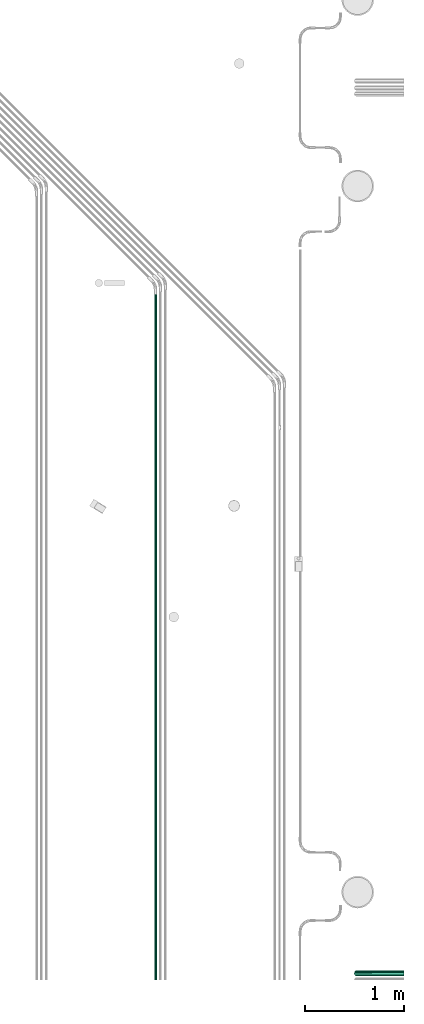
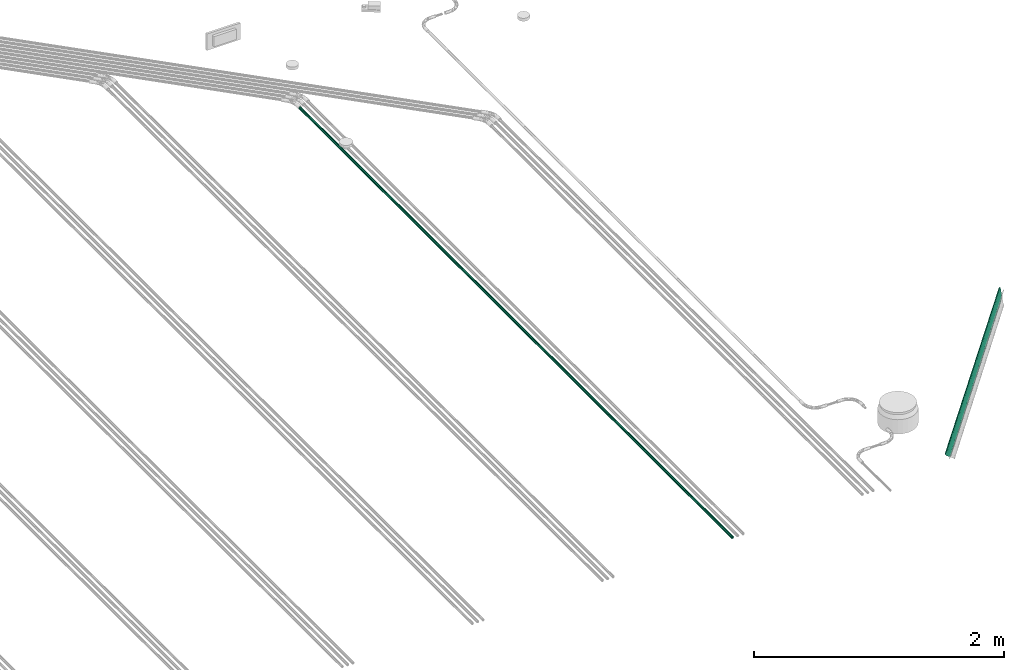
# One storey, part 38 of 51: 3 flow segments.
"""IFC2X3 building model written with IfcOpenShell, lengths in millimetres."""

from ifc_helpers import new_model, entity, si_unit, converted_unit, derived_unit, direction, frame, place, context, subcontext, project, spatial, faceted_brep, type_object, element, save


model = new_model("IFC2X3")

# Units and contexts
model_context = context("Model", 3, precision=0.01, world=frame((0.0, 4.29681676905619e-09, 0.0)), true_north=direction((4.01073788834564e-13, 1.0)))
plan_context = context("Plan", 3, precision=0.01, world=frame((0.0, 4.29681676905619e-09, 0.0)), true_north=direction((4.01073788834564e-13, 1.0)))
body_context = subcontext(model_context, "Body", "Model", "MODEL_VIEW")
ifc_project = project(units=[converted_unit("PLANEANGLEUNIT", "DEGREE", entity("IfcPositiveLengthMeasure", 0.0174532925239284), si_unit("PLANEANGLEUNIT", "RADIAN"), dimensions=[0, 0, 0, 0, 0, 0, 0]), si_unit("AREAUNIT", "SQUARE_METRE"), si_unit("LENGTHUNIT", "METRE", prefix="MILLI"), si_unit("MASSUNIT", "GRAM", prefix="KILO"), si_unit("POWERUNIT", "WATT"), si_unit("PRESSUREUNIT", "PASCAL"), si_unit("FORCEUNIT", "NEWTON", prefix="KILO"), si_unit("ELECTRICVOLTAGEUNIT", "VOLT"), si_unit("ELECTRICCURRENTUNIT", "AMPERE"), si_unit("THERMODYNAMICTEMPERATUREUNIT", "DEGREE_CELSIUS"), si_unit("TIMEUNIT", "SECOND"), si_unit("VOLUMEUNIT", "CUBIC_METRE"), derived_unit("LINEARVELOCITYUNIT", [(si_unit("LENGTHUNIT", "METRE"), 1), (si_unit("TIMEUNIT", "SECOND"), -1)]), derived_unit("VOLUMETRICFLOWRATEUNIT", [(si_unit("VOLUMEUNIT", "CUBIC_METRE"), 1), (si_unit("TIMEUNIT", "SECOND"), -1)]), derived_unit("THERMALTRANSMITTANCEUNIT", [(si_unit("POWERUNIT", "WATT"), 1), (si_unit("THERMODYNAMICTEMPERATUREUNIT", "KELVIN"), -1), (si_unit("AREAUNIT", "SQUARE_METRE"), -1)]), derived_unit("SOUNDPRESSUREUNIT", [(si_unit("PRESSUREUNIT", "PASCAL"), 1)])], contexts=[model_context, plan_context])

# Site, building, storey
site_placement = place(None, frame((0.0, -4.29681676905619e-09, 0.0), z_axis=(0.0, 0.0, 1.0), x_axis=(1.0, 0.0, 0.0)))
site = spatial("IfcSite", under=ifc_project, at=site_placement, Name="ENGM", CompositionType="ELEMENT")
building_placement = place(site_placement, frame((0.0, 4.29681676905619e-09, 0.0), z_axis=(0.0, 0.0, 1.0), x_axis=(1.0, 0.0, 0.0)))
building = spatial("IfcBuilding", under=site, at=building_placement, Name="TI", CompositionType="ELEMENT")
storey_placement = place(building_placement, frame((0.0, 0.0, 210900.0), z_axis=(0.0, 0.0, 1.0), x_axis=(1.0, 0.0, 0.0)))
storey = spatial("IfcBuildingStorey", under=building, at=storey_placement, Name="Nivå F", CompositionType="ELEMENT", Elevation=210900.0)

# Flow segments
cable_carrier_segment_type_1 = type_object("IfcCableCarrierSegmentType", Name="Trekkerør, korrugert", PredefinedType="CONDUITSEGMENT")
flow_segment_1_placement = place(storey_placement, frame((609924.59, 695914.18478, -56.7999999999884), z_axis=(0.0, 0.0, 1.0), x_axis=(0.0, -1.0, 0.0)))
element("IfcFlowSegment", 1, at=flow_segment_1_placement, inside=storey, type_object=cable_carrier_segment_type_1, Name="Trekkerør, korrugert", context=body_context, shape_type="Brep", body=[
    faceted_brep([(6914.18478000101, 10.5, 0.0), (6914.18478000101, 10.3404814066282, -1.82330586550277), (0.0, 10.3404814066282, -1.82330586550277), (0.0, 10.5, 0.0), (6914.18478000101, 9.86677251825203, -3.59121150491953), (0.0, 9.86677251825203, -3.59121150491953), (6914.18478000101, 9.0932667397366, -5.25), (0.0, 9.0932667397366, -5.25), (6914.18478000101, 8.04346665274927, -6.74926990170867), (0.0, 8.04346665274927, -6.74926990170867), (6914.18478000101, 6.74926990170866, -8.04346665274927), (0.0, 6.74926990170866, -8.04346665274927), (6914.18478000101, 5.25, -9.09326673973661), (0.0, 5.25, -9.09326673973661), (6914.18478000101, 3.59121150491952, -9.86677251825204), (0.0, 3.59121150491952, -9.86677251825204), (6914.18478000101, 1.82330586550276, -10.3404814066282), (0.0, 1.82330586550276, -10.3404814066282), (6914.18478000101, -1.92881870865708e-15, -10.5), (0.0, -1.92881870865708e-15, -10.5), (6914.18478000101, -1.82330586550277, -10.3404814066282), (0.0, -1.82330586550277, -10.3404814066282), (6914.18478000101, -3.59121150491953, -9.86677251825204), (0.0, -3.59121150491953, -9.86677251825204), (6914.18478000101, -5.25, -9.0932667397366), (0.0, -5.25, -9.0932667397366), (6914.18478000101, -6.74926990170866, -8.04346665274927), (0.0, -6.74926990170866, -8.04346665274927), (6914.18478000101, -8.04346665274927, -6.74926990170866), (0.0, -8.04346665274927, -6.74926990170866), (6914.18478000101, -9.09326673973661, -5.25), (0.0, -9.09326673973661, -5.25), (6914.18478000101, -9.86677251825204, -3.59121150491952), (0.0, -9.86677251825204, -3.59121150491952), (6914.18478000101, -10.3404814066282, -1.82330586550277), (0.0, -10.3404814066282, -1.82330586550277), (6914.18478000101, -10.5, 1.28587913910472e-15), (0.0, -10.5, 1.28587913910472e-15), (6914.18478000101, -10.3404814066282, 1.82330586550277), (0.0, -10.3404814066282, 1.82330586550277), (6914.18478000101, -9.86677251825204, 3.59121150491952), (0.0, -9.86677251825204, 3.59121150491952), (6914.18478000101, -9.09326673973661, 5.25), (0.0, -9.09326673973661, 5.25), (6914.18478000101, -8.04346665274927, 6.74926990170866), (0.0, -8.04346665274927, 6.74926990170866), (6914.18478000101, -6.74926990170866, 8.04346665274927), (0.0, -6.74926990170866, 8.04346665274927), (6914.18478000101, -5.25, 9.09326673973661), (0.0, -5.25, 9.09326673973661), (6914.18478000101, -3.59121150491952, 9.86677251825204), (0.0, -3.59121150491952, 9.86677251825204), (6914.18478000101, -1.82330586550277, 10.3404814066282), (0.0, -1.82330586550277, 10.3404814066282), (6914.18478000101, 6.4293956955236e-16, 10.5), (0.0, 6.4293956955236e-16, 10.5), (6914.18478000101, 1.82330586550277, 10.3404814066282), (0.0, 1.82330586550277, 10.3404814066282), (6914.18478000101, 3.59121150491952, 9.86677251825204), (0.0, 3.59121150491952, 9.86677251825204), (6914.18478000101, 5.25, 9.09326673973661), (0.0, 5.25, 9.09326673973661), (6914.18478000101, 6.74926990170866, 8.04346665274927), (0.0, 6.74926990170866, 8.04346665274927), (6914.18478000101, 8.04346665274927, 6.74926990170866), (0.0, 8.04346665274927, 6.74926990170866), (6914.18478000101, 9.09326673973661, 5.25), (0.0, 9.09326673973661, 5.25), (6914.18478000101, 9.86677251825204, 3.59121150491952), (0.0, 9.86677251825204, 3.59121150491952), (6914.18478000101, 10.3404814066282, 1.82330586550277), (0.0, 10.3404814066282, 1.82330586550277), (6914.18478000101, 12.3100969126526, -2.17060222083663), (6914.18478000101, 12.5, 0.0), (0.0, 12.5, 0.0), (0.0, 12.3100969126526, -2.17060222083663), (6914.18478000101, 12.3100969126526, 2.17060222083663), (0.0, 12.3100969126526, 2.17060222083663), (6914.18478000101, 11.7461577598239, 4.27525179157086), (0.0, 11.7461577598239, 4.27525179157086), (6914.18478000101, 10.8253175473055, 6.25), (0.0, 10.8253175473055, 6.25), (6914.18478000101, 9.57555553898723, 8.03484512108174), (0.0, 9.57555553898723, 8.03484512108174), (6914.18478000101, 8.03484512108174, 9.57555553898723), (0.0, 8.03484512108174, 9.57555553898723), (6914.18478000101, 6.25, 10.8253175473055), (0.0, 6.25, 10.8253175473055), (6914.18478000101, 4.27525179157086, 11.7461577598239), (0.0, 4.27525179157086, 11.7461577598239), (6914.18478000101, 2.17060222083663, 12.3100969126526), (0.0, 2.17060222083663, 12.3100969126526), (6914.18478000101, 7.65404249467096e-16, 12.5), (0.0, 7.65404249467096e-16, 12.5), (6914.18478000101, -2.17060222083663, 12.3100969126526), (0.0, -2.17060222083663, 12.3100969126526), (6914.18478000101, -4.27525179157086, 11.7461577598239), (0.0, -4.27525179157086, 11.7461577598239), (6914.18478000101, -6.25, 10.8253175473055), (0.0, -6.25, 10.8253175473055), (6914.18478000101, -8.03484512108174, 9.57555553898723), (0.0, -8.03484512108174, 9.57555553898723), (6914.18478000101, -9.57555553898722, 8.03484512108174), (0.0, -9.57555553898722, 8.03484512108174), (6914.18478000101, -10.8253175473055, 6.25), (0.0, -10.8253175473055, 6.25), (6914.18478000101, -11.7461577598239, 4.27525179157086), (0.0, -11.7461577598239, 4.27525179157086), (6914.18478000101, -12.3100969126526, 2.17060222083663), (0.0, -12.3100969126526, 2.17060222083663), (6914.18478000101, -12.5, 1.53080849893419e-15), (0.0, -12.5, 1.53080849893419e-15), (6914.18478000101, -12.3100969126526, -2.17060222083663), (0.0, -12.3100969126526, -2.17060222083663), (6914.18478000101, -11.7461577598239, -4.27525179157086), (0.0, -11.7461577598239, -4.27525179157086), (6914.18478000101, -10.8253175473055, -6.25), (0.0, -10.8253175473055, -6.25), (6914.18478000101, -9.57555553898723, -8.03484512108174), (0.0, -9.57555553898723, -8.03484512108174), (6914.18478000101, -8.03484512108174, -9.57555553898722), (0.0, -8.03484512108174, -9.57555553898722), (6914.18478000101, -6.25000000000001, -10.8253175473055), (0.0, -6.25000000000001, -10.8253175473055), (6914.18478000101, -4.27525179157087, -11.7461577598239), (0.0, -4.27525179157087, -11.7461577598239), (6914.18478000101, -2.17060222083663, -12.3100969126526), (0.0, -2.17060222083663, -12.3100969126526), (6914.18478000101, -2.29621274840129e-15, -12.5), (0.0, -2.29621274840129e-15, -12.5), (6914.18478000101, 2.17060222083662, -12.3100969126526), (0.0, 2.17060222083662, -12.3100969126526), (6914.18478000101, 4.27525179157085, -11.7461577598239), (0.0, 4.27525179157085, -11.7461577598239), (6914.18478000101, 6.25, -10.8253175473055), (0.0, 6.25, -10.8253175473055), (6914.18478000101, 8.03484512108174, -9.57555553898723), (0.0, 8.03484512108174, -9.57555553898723), (6914.18478000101, 9.57555553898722, -8.03484512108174), (0.0, 9.57555553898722, -8.03484512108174), (6914.18478000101, 10.8253175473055, -6.25000000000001), (0.0, 10.8253175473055, -6.25000000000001), (6914.18478000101, 11.7461577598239, -4.27525179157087), (0.0, 11.7461577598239, -4.27525179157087)], [[[0, 1, 2, 3]], [[1, 4, 5, 2]], [[4, 6, 7, 5]], [[6, 8, 9, 7]], [[8, 10, 11, 9]], [[10, 12, 13, 11]], [[12, 14, 15, 13]], [[14, 16, 17, 15]], [[16, 18, 19, 17]], [[18, 20, 21, 19]], [[20, 22, 23, 21]], [[22, 24, 25, 23]], [[24, 26, 27, 25]], [[26, 28, 29, 27]], [[28, 30, 31, 29]], [[30, 32, 33, 31]], [[32, 34, 35, 33]], [[34, 36, 37, 35]], [[36, 38, 39, 37]], [[38, 40, 41, 39]], [[40, 42, 43, 41]], [[42, 44, 45, 43]], [[44, 46, 47, 45]], [[46, 48, 49, 47]], [[48, 50, 51, 49]], [[50, 52, 53, 51]], [[52, 54, 55, 53]], [[54, 56, 57, 55]], [[56, 58, 59, 57]], [[58, 60, 61, 59]], [[60, 62, 63, 61]], [[62, 64, 65, 63]], [[64, 66, 67, 65]], [[66, 68, 69, 67]], [[68, 70, 71, 69]], [[70, 0, 3, 71]], [[72, 73, 74, 75]], [[73, 76, 77, 74]], [[76, 78, 79, 77]], [[78, 80, 81, 79]], [[80, 82, 83, 81]], [[82, 84, 85, 83]], [[84, 86, 87, 85]], [[86, 88, 89, 87]], [[88, 90, 91, 89]], [[90, 92, 93, 91]], [[92, 94, 95, 93]], [[94, 96, 97, 95]], [[96, 98, 99, 97]], [[98, 100, 101, 99]], [[100, 102, 103, 101]], [[102, 104, 105, 103]], [[104, 106, 107, 105]], [[106, 108, 109, 107]], [[108, 110, 111, 109]], [[110, 112, 113, 111]], [[112, 114, 115, 113]], [[114, 116, 117, 115]], [[116, 118, 119, 117]], [[118, 120, 121, 119]], [[120, 122, 123, 121]], [[122, 124, 125, 123]], [[124, 126, 127, 125]], [[126, 128, 129, 127]], [[128, 130, 131, 129]], [[130, 132, 133, 131]], [[132, 134, 135, 133]], [[134, 136, 137, 135]], [[136, 138, 139, 137]], [[138, 140, 141, 139]], [[140, 142, 143, 141]], [[142, 72, 75, 143]], [[75, 74, 77, 79, 81, 83, 85, 87, 89, 91, 93, 95, 97, 99, 101, 103, 105, 107, 109, 111, 113, 115, 117, 119, 121, 123, 125, 127, 129, 131, 133, 135, 137, 139, 141, 143], [3, 2, 5, 7, 9, 11, 13, 15, 17, 19, 21, 23, 25, 27, 29, 31, 33, 35, 37, 39, 41, 43, 45, 47, 49, 51, 53, 55, 57, 59, 61, 63, 65, 67, 69, 71]], [[142, 140, 138, 136, 134, 132, 130, 128, 126, 124, 122, 120, 118, 116, 114, 112, 110, 108, 106, 104, 102, 100, 98, 96, 94, 92, 90, 88, 86, 84, 82, 80, 78, 76, 73, 72], [70, 68, 66, 64, 62, 60, 58, 56, 54, 52, 50, 48, 46, 44, 42, 40, 38, 36, 34, 32, 30, 28, 26, 24, 22, 20, 18, 16, 14, 12, 10, 8, 6, 4, 1, 0]]], orient=[[False], [False], [False], [False], [False], [False], [False], [False], [False], [False], [False], [False], [False], [False], [False], [False], [False], [False], [False], [False], [False], [False], [False], [False], [False], [False], [False], [False], [False], [False], [False], [False], [False], [False], [False], [False], [False], [False], [False], [False], [False], [False], [False], [False], [False], [False], [False], [False], [False], [False], [False], [False], [False], [False], [False], [False], [False], [False], [False], [False], [False], [False], [False], [False], [False], [False], [False], [False], [False], [False], [False], [False], [False, False], [False, False]]),
])
cable_carrier_segment_type_2 = type_object("IfcCableCarrierSegmentType", Name="Trekkerør, glatt", PredefinedType="CONDUITSEGMENT")
flow_segment_2_placement = place(storey_placement, frame((611951.78203, 689069.90273, 0.0), z_axis=(-0.945322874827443, 0.0, 0.326135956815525), x_axis=(0.326135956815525, 0.0, 0.945322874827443)))
element("IfcFlowSegment", 2, at=flow_segment_2_placement, inside=storey, type_object=cable_carrier_segment_type_2, Name="Trekkerør, glatt", context=body_context, shape_type="Brep", body=[
    faceted_brep([(1466.31396525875, 23.0, 0.0), (1454.73740464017, 22.6505783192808, -3.9939080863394), (0.0, 22.6505783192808, -3.9939080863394), (0.0, 23.0, 0.0), (1443.51259195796, 21.6129302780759, -7.8664632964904), (0.0, 21.6129302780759, -7.8664632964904), (1432.98058746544, 19.9185842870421, -11.5), (0.0, 19.9185842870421, -11.5), (1423.46140078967, 17.6190221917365, -14.7841150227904), (0.0, 17.6190221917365, -14.7841150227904), (1415.24426760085, 14.7841150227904, -17.6190221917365), (0.0, 14.7841150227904, -17.6190221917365), (1408.57886133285, 11.5, -19.9185842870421), (0.0, 11.5, -19.9185842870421), (1403.66770698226, 7.86646329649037, -21.6129302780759), (0.0, 7.86646329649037, -21.6129302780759), (1400.66002748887, 3.99390808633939, -22.6505783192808), (0.0, 3.99390808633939, -22.6505783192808), (1399.64720967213, -4.22503145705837e-15, -23.0), (0.0, -4.22503145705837e-15, -23.0), (1400.66002748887, -3.9939080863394, -22.6505783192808), (0.0, -3.9939080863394, -22.6505783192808), (1403.66770698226, -7.8664632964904, -21.6129302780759), (0.0, -7.8664632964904, -21.6129302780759), (1408.57886133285, -11.5, -19.9185842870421), (0.0, -11.5, -19.9185842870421), (1415.24426760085, -14.7841150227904, -17.6190221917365), (0.0, -14.7841150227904, -17.6190221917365), (1423.46140078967, -17.6190221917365, -14.7841150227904), (0.0, -17.6190221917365, -14.7841150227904), (1432.98058746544, -19.9185842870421, -11.5), (0.0, -19.9185842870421, -11.5), (1443.51259195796, -21.6129302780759, -7.86646329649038), (0.0, -21.6129302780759, -7.86646329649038), (1454.73740464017, -22.6505783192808, -3.99390808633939), (0.0, -22.6505783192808, -3.99390808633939), (1466.31396525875, -23.0, 2.81668763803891e-15), (0.0, -23.0, 2.81668763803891e-15), (1477.89052587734, -22.6505783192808, 3.99390808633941), (0.0, -22.6505783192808, 3.99390808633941), (1489.11533855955, -21.6129302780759, 7.86646329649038), (0.0, -21.6129302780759, 7.86646329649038), (1499.64734305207, -19.9185842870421, 11.5), (0.0, -19.9185842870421, 11.5), (1509.16652972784, -17.6190221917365, 14.7841150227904), (0.0, -17.6190221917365, 14.7841150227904), (1517.38366291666, -14.7841150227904, 17.6190221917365), (0.0, -14.7841150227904, 17.6190221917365), (1524.04906918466, -11.5, 19.9185842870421), (0.0, -11.5, 19.9185842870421), (1528.96022353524, -7.86646329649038, 21.6129302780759), (0.0, -7.86646329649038, 21.6129302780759), (1531.96790302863, -3.9939080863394, 22.6505783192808), (0.0, -3.9939080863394, 22.6505783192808), (1532.98072084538, 1.40834381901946e-15, 23.0), (0.0, 1.40834381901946e-15, 23.0), (1531.96790302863, 3.9939080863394, 22.6505783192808), (0.0, 3.9939080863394, 22.6505783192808), (1528.96022353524, 7.86646329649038, 21.6129302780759), (0.0, 7.86646329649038, 21.6129302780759), (1524.04906918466, 11.5, 19.9185842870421), (0.0, 11.5, 19.9185842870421), (1517.38366291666, 14.7841150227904, 17.6190221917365), (0.0, 14.7841150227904, 17.6190221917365), (1509.16652972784, 17.6190221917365, 14.7841150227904), (0.0, 17.6190221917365, 14.7841150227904), (1499.64734305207, 19.9185842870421, 11.5), (0.0, 19.9185842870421, 11.5), (1489.11533855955, 21.6129302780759, 7.86646329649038), (0.0, 21.6129302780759, 7.86646329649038), (1477.89052587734, 22.6505783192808, 3.9939080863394), (0.0, 22.6505783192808, 3.9939080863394), (1453.73074719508, 24.6201938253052, -4.34120444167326), (1466.31396525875, 25.0, 0.0), (0.0, 25.0, 0.0), (0.0, 24.6201938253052, -4.34120444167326), (1478.89718332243, 24.6201938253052, 4.34120444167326), (0.0, 24.6201938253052, 4.34120444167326), (1491.09806667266, 23.4923155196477, 8.55050358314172), (0.0, 23.4923155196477, 8.55050358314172), (1502.54589764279, 21.650635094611, 12.5), (0.0, 21.650635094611, 12.5), (1512.89283968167, 19.1511110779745, 16.0696902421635), (0.0, 19.1511110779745, 16.0696902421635), (1521.82450619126, 16.0696902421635, 19.1511110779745), (0.0, 16.0696902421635, 19.1511110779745), (1529.06951300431, 12.5, 21.650635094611), (0.0, 12.5, 21.650635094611), (1534.40772425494, 8.55050358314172, 23.4923155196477), (0.0, 8.55050358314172, 23.4923155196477), (1537.67694109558, 4.34120444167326, 24.6201938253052), (0.0, 4.34120444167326, 24.6201938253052), (1538.77783002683, 1.53080849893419e-15, 25.0), (0.0, 1.53080849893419e-15, 25.0), (1537.67694109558, -4.34120444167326, 24.6201938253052), (0.0, -4.34120444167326, 24.6201938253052), (1534.40772425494, -8.55050358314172, 23.4923155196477), (0.0, -8.55050358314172, 23.4923155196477), (1529.06951300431, -12.5, 21.650635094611), (0.0, -12.5, 21.650635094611), (1521.82450619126, -16.0696902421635, 19.1511110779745), (0.0, -16.0696902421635, 19.1511110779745), (1512.89283968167, -19.1511110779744, 16.0696902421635), (0.0, -19.1511110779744, 16.0696902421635), (1502.54589764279, -21.650635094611, 12.5), (0.0, -21.650635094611, 12.5), (1491.09806667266, -23.4923155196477, 8.55050358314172), (0.0, -23.4923155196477, 8.55050358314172), (1478.89718332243, -24.6201938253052, 4.34120444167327), (0.0, -24.6201938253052, 4.34120444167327), (1466.31396525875, -25.0, 3.06161699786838e-15), (0.0, -25.0, 3.06161699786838e-15), (1453.73074719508, -24.6201938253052, -4.34120444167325), (0.0, -24.6201938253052, -4.34120444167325), (1441.52986384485, -23.4923155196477, -8.55050358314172), (0.0, -23.4923155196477, -8.55050358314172), (1430.08203287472, -21.650635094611, -12.5), (0.0, -21.650635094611, -12.5), (1419.73509083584, -19.1511110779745, -16.0696902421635), (0.0, -19.1511110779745, -16.0696902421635), (1410.80342432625, -16.0696902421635, -19.1511110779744), (0.0, -16.0696902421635, -19.1511110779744), (1403.5584175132, -12.5, -21.650635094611), (0.0, -12.5, -21.650635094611), (1398.22020626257, -8.55050358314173, -23.4923155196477), (0.0, -8.55050358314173, -23.4923155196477), (1394.95098942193, -4.34120444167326, -24.6201938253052), (0.0, -4.34120444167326, -24.6201938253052), (1393.85010049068, -4.59242549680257e-15, -25.0), (0.0, -4.59242549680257e-15, -25.0), (1394.95098942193, 4.34120444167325, -24.6201938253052), (0.0, 4.34120444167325, -24.6201938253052), (1398.22020626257, 8.5505035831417, -23.4923155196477), (0.0, 8.5505035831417, -23.4923155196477), (1403.5584175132, 12.5, -21.650635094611), (0.0, 12.5, -21.650635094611), (1410.80342432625, 16.0696902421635, -19.1511110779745), (0.0, 16.0696902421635, -19.1511110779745), (1419.73509083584, 19.1511110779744, -16.0696902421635), (0.0, 19.1511110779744, -16.0696902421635), (1430.08203287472, 21.650635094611, -12.5), (0.0, 21.650635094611, -12.5), (1441.52986384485, 23.4923155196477, -8.55050358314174), (0.0, 23.4923155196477, -8.55050358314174)], [[[0, 1, 2, 3]], [[1, 4, 5, 2]], [[4, 6, 7, 5]], [[6, 8, 9, 7]], [[8, 10, 11, 9]], [[10, 12, 13, 11]], [[12, 14, 15, 13]], [[14, 16, 17, 15]], [[16, 18, 19, 17]], [[18, 20, 21, 19]], [[20, 22, 23, 21]], [[22, 24, 25, 23]], [[24, 26, 27, 25]], [[26, 28, 29, 27]], [[28, 30, 31, 29]], [[30, 32, 33, 31]], [[32, 34, 35, 33]], [[34, 36, 37, 35]], [[36, 38, 39, 37]], [[38, 40, 41, 39]], [[40, 42, 43, 41]], [[42, 44, 45, 43]], [[44, 46, 47, 45]], [[46, 48, 49, 47]], [[48, 50, 51, 49]], [[50, 52, 53, 51]], [[52, 54, 55, 53]], [[54, 56, 57, 55]], [[56, 58, 59, 57]], [[58, 60, 61, 59]], [[60, 62, 63, 61]], [[62, 64, 65, 63]], [[64, 66, 67, 65]], [[66, 68, 69, 67]], [[68, 70, 71, 69]], [[70, 0, 3, 71]], [[72, 73, 74, 75]], [[73, 76, 77, 74]], [[76, 78, 79, 77]], [[78, 80, 81, 79]], [[80, 82, 83, 81]], [[82, 84, 85, 83]], [[84, 86, 87, 85]], [[86, 88, 89, 87]], [[88, 90, 91, 89]], [[90, 92, 93, 91]], [[92, 94, 95, 93]], [[94, 96, 97, 95]], [[96, 98, 99, 97]], [[98, 100, 101, 99]], [[100, 102, 103, 101]], [[102, 104, 105, 103]], [[104, 106, 107, 105]], [[106, 108, 109, 107]], [[108, 110, 111, 109]], [[110, 112, 113, 111]], [[112, 114, 115, 113]], [[114, 116, 117, 115]], [[116, 118, 119, 117]], [[118, 120, 121, 119]], [[120, 122, 123, 121]], [[122, 124, 125, 123]], [[124, 126, 127, 125]], [[126, 128, 129, 127]], [[128, 130, 131, 129]], [[130, 132, 133, 131]], [[132, 134, 135, 133]], [[134, 136, 137, 135]], [[136, 138, 139, 137]], [[138, 140, 141, 139]], [[140, 142, 143, 141]], [[142, 72, 75, 143]], [[75, 74, 77, 79, 81, 83, 85, 87, 89, 91, 93, 95, 97, 99, 101, 103, 105, 107, 109, 111, 113, 115, 117, 119, 121, 123, 125, 127, 129, 131, 133, 135, 137, 139, 141, 143], [3, 2, 5, 7, 9, 11, 13, 15, 17, 19, 21, 23, 25, 27, 29, 31, 33, 35, 37, 39, 41, 43, 45, 47, 49, 51, 53, 55, 57, 59, 61, 63, 65, 67, 69, 71]], [[142, 140, 138, 136, 134, 132, 130, 128, 126, 124, 122, 120, 118, 116, 114, 112, 110, 108, 106, 104, 102, 100, 98, 96, 94, 92, 90, 88, 86, 84, 82, 80, 78, 76, 73, 72], [70, 68, 66, 64, 62, 60, 58, 56, 54, 52, 50, 48, 46, 44, 42, 40, 38, 36, 34, 32, 30, 28, 26, 24, 22, 20, 18, 16, 14, 12, 10, 8, 6, 4, 1, 0]]], orient=[[False], [False], [False], [False], [False], [False], [False], [False], [False], [False], [False], [False], [False], [False], [False], [False], [False], [False], [False], [False], [False], [False], [False], [False], [False], [False], [False], [False], [False], [False], [False], [False], [False], [False], [False], [False], [False], [False], [False], [False], [False], [False], [False], [False], [False], [False], [False], [False], [False], [False], [False], [False], [False], [False], [False], [False], [False], [False], [False], [False], [False], [False], [False], [False], [False], [False], [False], [False], [False], [False], [False], [False], [False, False], [False, False]]),
])
flow_segment_3_placement = place(storey_placement, frame((611951.30791, 689064.99141, 0.0), z_axis=(-0.945719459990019, 0.0, 0.324984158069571), x_axis=(0.324984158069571, 0.0, 0.945719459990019)))
element("IfcFlowSegment", 3, at=flow_segment_3_placement, inside=storey, type_object=cable_carrier_segment_type_2, Name="Trekkerør, glatt", context=body_context, shape_type="Brep", body=[
    faceted_brep([(1472.96973149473, 23.0, 0.0), (1461.34726773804, 22.6505783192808, -3.9939080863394), (0.0, 22.6505783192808, -3.9939080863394), (0.0, 23.0, 0.0), (1450.07794666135, 21.6129302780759, -7.8664632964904), (0.0, 21.6129302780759, -7.8664632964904), (1439.50418088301, 19.9185842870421, -11.5), (0.0, 19.9185842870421, -11.5), (1429.94724892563, 17.6190221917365, -14.7841150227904), (0.0, 17.6190221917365, -14.7841150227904), (1421.69753333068, 14.7841150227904, -17.6190221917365), (0.0, 14.7841150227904, -17.6190221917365), (1415.00569753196, 11.5, -19.9185842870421), (0.0, 11.5, -19.9185842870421), (1410.07506957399, 7.86646329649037, -21.6129302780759), (0.0, 7.86646329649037, -21.6129302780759), (1407.05546409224, 3.99390808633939, -22.6505783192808), (0.0, 3.99390808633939, -22.6505783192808), (1406.03863027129, -4.22503145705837e-15, -23.0), (0.0, -4.22503145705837e-15, -23.0), (1407.05546409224, -3.9939080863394, -22.6505783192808), (0.0, -3.9939080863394, -22.6505783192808), (1410.07506957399, -7.8664632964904, -21.6129302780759), (0.0, -7.8664632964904, -21.6129302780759), (1415.00569753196, -11.5, -19.9185842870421), (0.0, -11.5, -19.9185842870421), (1421.69753333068, -14.7841150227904, -17.6190221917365), (0.0, -14.7841150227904, -17.6190221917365), (1429.94724892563, -17.6190221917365, -14.7841150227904), (0.0, -17.6190221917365, -14.7841150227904), (1439.50418088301, -19.9185842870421, -11.5), (0.0, -19.9185842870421, -11.5), (1450.07794666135, -21.6129302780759, -7.86646329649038), (0.0, -21.6129302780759, -7.86646329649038), (1461.34726773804, -22.6505783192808, -3.99390808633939), (0.0, -22.6505783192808, -3.99390808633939), (1472.96973149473, -23.0, 2.81668763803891e-15), (0.0, -23.0, 2.81668763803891e-15), (1484.59219525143, -22.6505783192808, 3.99390808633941), (0.0, -22.6505783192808, 3.99390808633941), (1495.86151632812, -21.6129302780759, 7.86646329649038), (0.0, -21.6129302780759, 7.86646329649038), (1506.43528210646, -19.9185842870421, 11.5), (0.0, -19.9185842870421, 11.5), (1515.99221406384, -17.6190221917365, 14.7841150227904), (0.0, -17.6190221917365, 14.7841150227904), (1524.24192965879, -14.7841150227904, 17.6190221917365), (0.0, -14.7841150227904, 17.6190221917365), (1530.9337654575, -11.5, 19.9185842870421), (0.0, -11.5, 19.9185842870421), (1535.86439341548, -7.86646329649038, 21.6129302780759), (0.0, -7.86646329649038, 21.6129302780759), (1538.88399889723, -3.9939080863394, 22.6505783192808), (0.0, -3.9939080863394, 22.6505783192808), (1539.90083271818, 1.40834381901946e-15, 23.0), (0.0, 1.40834381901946e-15, 23.0), (1538.88399889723, 3.9939080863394, 22.6505783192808), (0.0, 3.9939080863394, 22.6505783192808), (1535.86439341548, 7.86646329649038, 21.6129302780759), (0.0, 7.86646329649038, 21.6129302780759), (1530.9337654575, 11.5, 19.9185842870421), (0.0, 11.5, 19.9185842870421), (1524.24192965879, 14.7841150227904, 17.6190221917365), (0.0, 14.7841150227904, 17.6190221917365), (1515.99221406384, 17.6190221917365, 14.7841150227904), (0.0, 17.6190221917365, 14.7841150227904), (1506.43528210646, 19.9185842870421, 11.5), (0.0, 19.9185842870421, 11.5), (1495.86151632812, 21.6129302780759, 7.86646329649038), (0.0, 21.6129302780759, 7.86646329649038), (1484.59219525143, 22.6505783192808, 3.9939080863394), (0.0, 22.6505783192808, 3.9939080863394), (1460.33661871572, 24.6201938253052, -4.34120444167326), (1472.96973149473, 25.0, 0.0), (0.0, 25.0, 0.0), (0.0, 24.6201938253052, -4.34120444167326), (1485.60284427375, 24.6201938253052, 4.34120444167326), (0.0, 24.6201938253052, 4.34120444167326), (1497.85210631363, 23.4923155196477, 8.55050358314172), (0.0, 23.4923155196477, 8.55050358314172), (1509.34532998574, 21.650635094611, 12.5), (0.0, 21.650635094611, 12.5), (1519.73329950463, 19.1511110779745, 16.0696902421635), (0.0, 19.1511110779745, 16.0696902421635), (1528.70038167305, 16.0696902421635, 19.1511110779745), (0.0, 16.0696902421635, 19.1511110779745), (1535.97411623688, 12.5, 21.650635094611), (0.0, 12.5, 21.650635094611), (1541.33349445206, 8.55050358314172, 23.4923155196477), (0.0, 8.55050358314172, 23.4923155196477), (1544.61567432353, 4.34120444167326, 24.6201938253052), (0.0, 4.34120444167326, 24.6201938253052), (1545.72092847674, 1.53080849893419e-15, 25.0), (0.0, 1.53080849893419e-15, 25.0), (1544.61567432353, -4.34120444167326, 24.6201938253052), (0.0, -4.34120444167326, 24.6201938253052), (1541.33349445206, -8.55050358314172, 23.4923155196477), (0.0, -8.55050358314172, 23.4923155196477), (1535.97411623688, -12.5, 21.650635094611), (0.0, -12.5, 21.650635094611), (1528.70038167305, -16.0696902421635, 19.1511110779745), (0.0, -16.0696902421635, 19.1511110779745), (1519.73329950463, -19.1511110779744, 16.0696902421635), (0.0, -19.1511110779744, 16.0696902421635), (1509.34532998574, -21.650635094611, 12.5), (0.0, -21.650635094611, 12.5), (1497.85210631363, -23.4923155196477, 8.55050358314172), (0.0, -23.4923155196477, 8.55050358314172), (1485.60284427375, -24.6201938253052, 4.34120444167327), (0.0, -24.6201938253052, 4.34120444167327), (1472.96973149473, -25.0, 3.06161699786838e-15), (0.0, -25.0, 3.06161699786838e-15), (1460.33661871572, -24.6201938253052, -4.34120444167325), (0.0, -24.6201938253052, -4.34120444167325), (1448.08735667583, -23.4923155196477, -8.55050358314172), (0.0, -23.4923155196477, -8.55050358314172), (1436.59413300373, -21.650635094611, -12.5), (0.0, -21.650635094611, -12.5), (1426.20616348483, -19.1511110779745, -16.0696902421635), (0.0, -19.1511110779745, -16.0696902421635), (1417.23908131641, -16.0696902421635, -19.1511110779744), (0.0, -16.0696902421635, -19.1511110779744), (1409.96534675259, -12.5, -21.650635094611), (0.0, -12.5, -21.650635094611), (1404.6059685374, -8.55050358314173, -23.4923155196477), (0.0, -8.55050358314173, -23.4923155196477), (1401.32378866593, -4.34120444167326, -24.6201938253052), (0.0, -4.34120444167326, -24.6201938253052), (1400.21853451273, -4.59242549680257e-15, -25.0), (0.0, -4.59242549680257e-15, -25.0), (1401.32378866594, 4.34120444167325, -24.6201938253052), (0.0, 4.34120444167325, -24.6201938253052), (1404.6059685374, 8.5505035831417, -23.4923155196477), (0.0, 8.5505035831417, -23.4923155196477), (1409.96534675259, 12.5, -21.650635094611), (0.0, 12.5, -21.650635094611), (1417.23908131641, 16.0696902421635, -19.1511110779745), (0.0, 16.0696902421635, -19.1511110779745), (1426.20616348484, 19.1511110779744, -16.0696902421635), (0.0, 19.1511110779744, -16.0696902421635), (1436.59413300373, 21.650635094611, -12.5), (0.0, 21.650635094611, -12.5), (1448.08735667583, 23.4923155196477, -8.55050358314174), (0.0, 23.4923155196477, -8.55050358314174)], [[[0, 1, 2, 3]], [[1, 4, 5, 2]], [[4, 6, 7, 5]], [[6, 8, 9, 7]], [[8, 10, 11, 9]], [[10, 12, 13, 11]], [[12, 14, 15, 13]], [[14, 16, 17, 15]], [[16, 18, 19, 17]], [[18, 20, 21, 19]], [[20, 22, 23, 21]], [[22, 24, 25, 23]], [[24, 26, 27, 25]], [[26, 28, 29, 27]], [[28, 30, 31, 29]], [[30, 32, 33, 31]], [[32, 34, 35, 33]], [[34, 36, 37, 35]], [[36, 38, 39, 37]], [[38, 40, 41, 39]], [[40, 42, 43, 41]], [[42, 44, 45, 43]], [[44, 46, 47, 45]], [[46, 48, 49, 47]], [[48, 50, 51, 49]], [[50, 52, 53, 51]], [[52, 54, 55, 53]], [[54, 56, 57, 55]], [[56, 58, 59, 57]], [[58, 60, 61, 59]], [[60, 62, 63, 61]], [[62, 64, 65, 63]], [[64, 66, 67, 65]], [[66, 68, 69, 67]], [[68, 70, 71, 69]], [[70, 0, 3, 71]], [[72, 73, 74, 75]], [[73, 76, 77, 74]], [[76, 78, 79, 77]], [[78, 80, 81, 79]], [[80, 82, 83, 81]], [[82, 84, 85, 83]], [[84, 86, 87, 85]], [[86, 88, 89, 87]], [[88, 90, 91, 89]], [[90, 92, 93, 91]], [[92, 94, 95, 93]], [[94, 96, 97, 95]], [[96, 98, 99, 97]], [[98, 100, 101, 99]], [[100, 102, 103, 101]], [[102, 104, 105, 103]], [[104, 106, 107, 105]], [[106, 108, 109, 107]], [[108, 110, 111, 109]], [[110, 112, 113, 111]], [[112, 114, 115, 113]], [[114, 116, 117, 115]], [[116, 118, 119, 117]], [[118, 120, 121, 119]], [[120, 122, 123, 121]], [[122, 124, 125, 123]], [[124, 126, 127, 125]], [[126, 128, 129, 127]], [[128, 130, 131, 129]], [[130, 132, 133, 131]], [[132, 134, 135, 133]], [[134, 136, 137, 135]], [[136, 138, 139, 137]], [[138, 140, 141, 139]], [[140, 142, 143, 141]], [[142, 72, 75, 143]], [[75, 74, 77, 79, 81, 83, 85, 87, 89, 91, 93, 95, 97, 99, 101, 103, 105, 107, 109, 111, 113, 115, 117, 119, 121, 123, 125, 127, 129, 131, 133, 135, 137, 139, 141, 143], [3, 2, 5, 7, 9, 11, 13, 15, 17, 19, 21, 23, 25, 27, 29, 31, 33, 35, 37, 39, 41, 43, 45, 47, 49, 51, 53, 55, 57, 59, 61, 63, 65, 67, 69, 71]], [[142, 140, 138, 136, 134, 132, 130, 128, 126, 124, 122, 120, 118, 116, 114, 112, 110, 108, 106, 104, 102, 100, 98, 96, 94, 92, 90, 88, 86, 84, 82, 80, 78, 76, 73, 72], [70, 68, 66, 64, 62, 60, 58, 56, 54, 52, 50, 48, 46, 44, 42, 40, 38, 36, 34, 32, 30, 28, 26, 24, 22, 20, 18, 16, 14, 12, 10, 8, 6, 4, 1, 0]]], orient=[[False], [False], [False], [False], [False], [False], [False], [False], [False], [False], [False], [False], [False], [False], [False], [False], [False], [False], [False], [False], [False], [False], [False], [False], [False], [False], [False], [False], [False], [False], [False], [False], [False], [False], [False], [False], [False], [False], [False], [False], [False], [False], [False], [False], [False], [False], [False], [False], [False], [False], [False], [False], [False], [False], [False], [False], [False], [False], [False], [False], [False], [False], [False], [False], [False], [False], [False], [False], [False], [False], [False], [False], [False, False], [False, False]]),
])

save(model, "model.ifc")
